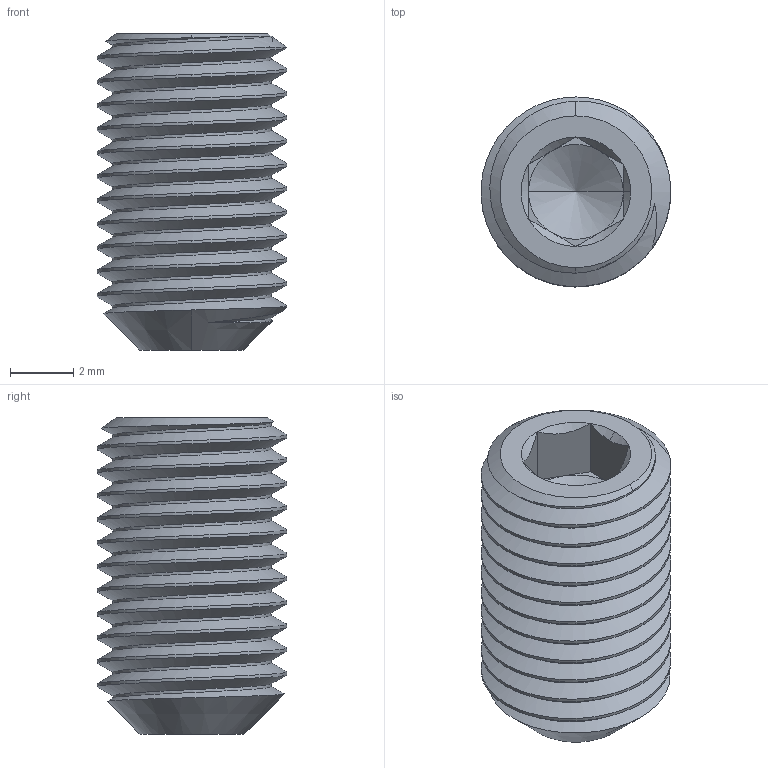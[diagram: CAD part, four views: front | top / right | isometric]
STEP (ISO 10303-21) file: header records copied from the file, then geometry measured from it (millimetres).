
FILE_DESCRIPTION (( 'STEP AP203' ), '1' );
FILE_NAME ('Cup-Point Set Screw 6x10 pitch 0.75mm.STEP', '2025-09-25T16:34:54', ( '' ), ( '' ), 'SwSTEP 2.0', 'SolidWorks 2024', '' );
FILE_SCHEMA (( 'CONFIG_CONTROL_DESIGN' ));
Length unit declared in the file: millimetre
Products named in the file (1): Cup-Point Set Screw 6x10 pitch 0.75mm
Bounding box: 5.99 x 6 x 10 mm (x, y, z)
Volume: 209.2 mm3; surface area: 337.9 mm2
Topology: 1 solids, 1 shells, 54 faces, 137 edges, 82 vertices
Faces by surface type: cylinder 23, cone 15, plane 13, bspline 3
Entity records: 3761 total; most frequent: CARTESIAN_POINT 2588, ORIENTED_EDGE 266, DIRECTION 191, EDGE_CURVE 133, VERTEX_POINT 82, AXIS2_PLACEMENT_3D 71, EDGE_LOOP 55, ADVANCED_FACE 54
